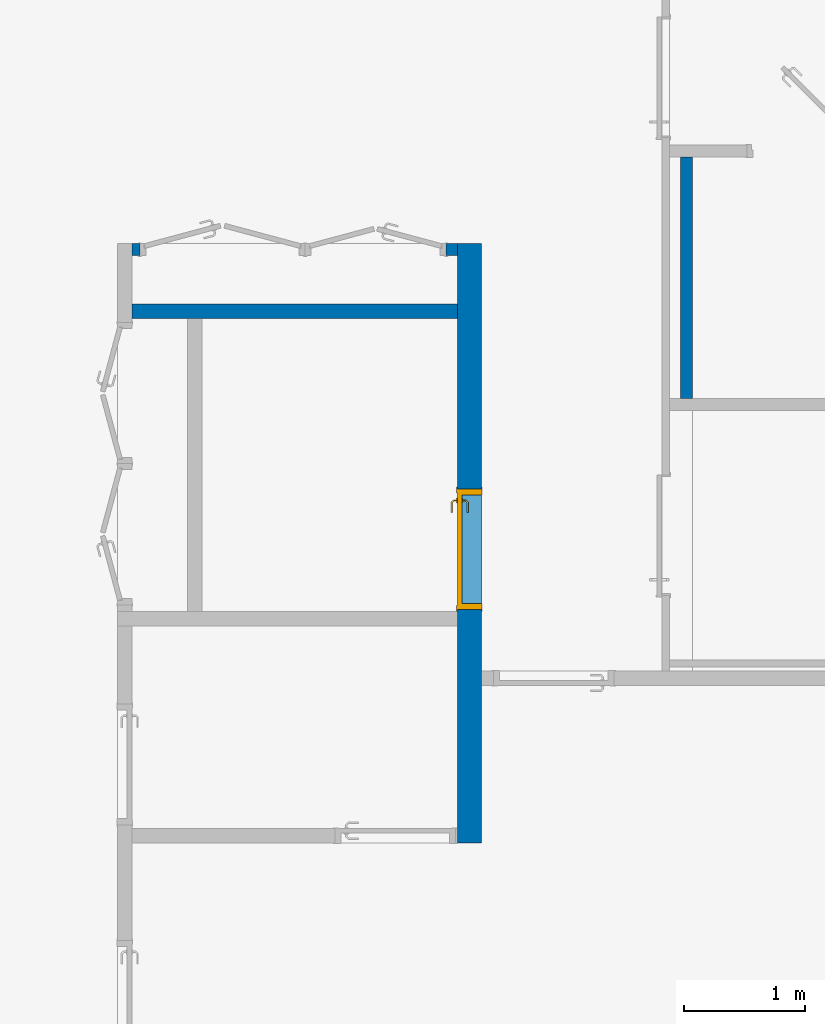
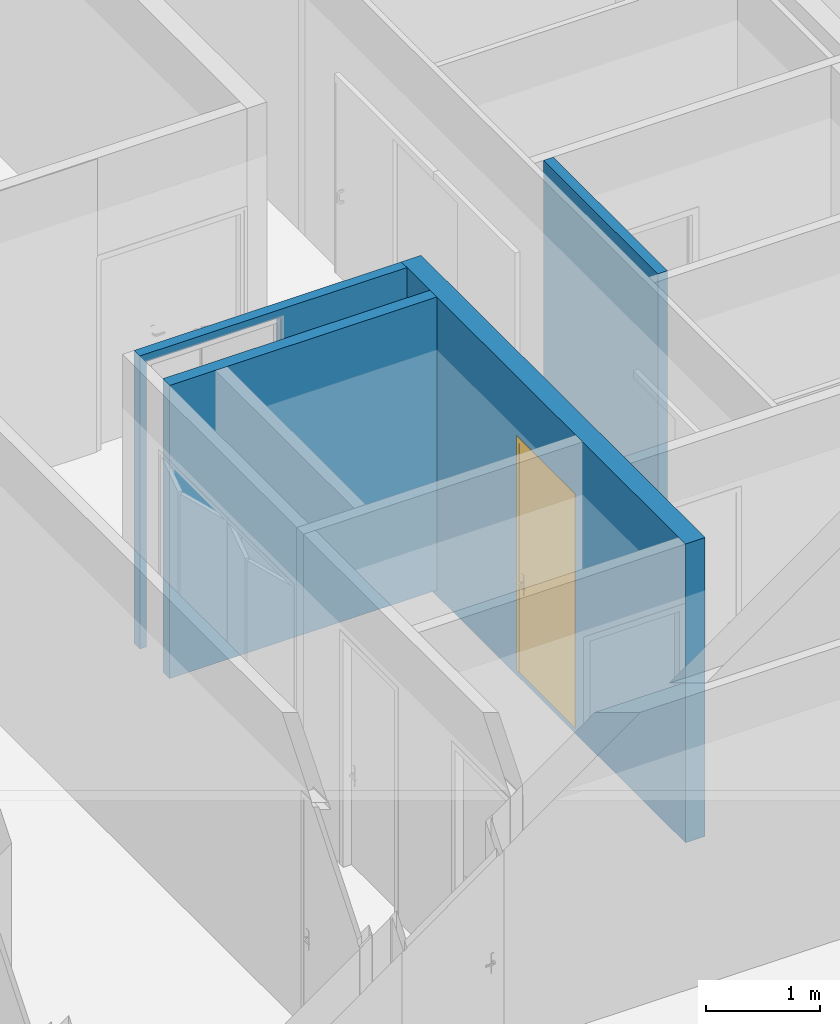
# One storey, part 97 of 240: 4 walls, 1 door, 3 openings.
"""IFC2X3 building model written with IfcOpenShell, lengths in centimetres."""

import ifcopenshell
import ifcopenshell.guid

model = None  # the IFC model being written
_history = None  # IfcOwnerHistory: only IFC2X3 demands one
_inside = {}  # id of a spatial element -> (the spatial element, [elements in it])
_under = {}  # id of a project, library or spatial element -> (it, [spatial elements below it])
_declared = {}  # id of a project -> (the project, [libraries it declares])
_typed = {}  # id of a type object -> (the type object, [elements of that type])
_made_of = {}  # id of a material, layer set ... -> (it, [elements and type objects made of it])


def new_model(schema):
    """Start an empty IFC model of exactly this schema.

    Asked for "IFC4X3", IfcOpenShell would pick the latest addendum, in which some entities
    have other attributes; the version numbers below select the first issue.
    IFC2X3 requires an IfcOwnerHistory on every rooted entity: one is made here for all.
    """
    global model, _history
    if schema == "IFC4X3":
        model = ifcopenshell.file(schema_version=(4, 3, 0, 0))
    else:
        model = ifcopenshell.file(schema=schema)
    _inside.clear()
    _under.clear()
    _declared.clear()
    _typed.clear()
    _made_of.clear()
    _history = None
    if model.schema == "IFC2X3":
        org = make("IfcOrganization", Name="unknown")
        user = make(
            "IfcPersonAndOrganization",
            ThePerson=make("IfcPerson", FamilyName="unknown"),
            TheOrganization=org,
        )
        app = make(
            "IfcApplication",
            ApplicationDeveloper=org,
            Version="unknown",
            ApplicationFullName="unknown",
            ApplicationIdentifier="unknown",
        )
        _history = make(
            "IfcOwnerHistory",
            OwningUser=user,
            OwningApplication=app,
            ChangeAction="ADDED",
            CreationDate=0,
        )
    return model


def make(cls, **values):
    """One entity of the class cls with the attributes given. An attribute that is None is left unset."""
    return model.create_entity(
        cls, **{name: value for name, value in values.items() if value is not None}
    )


def entity(cls, *values):
    """Any entity or typed value of the class cls, its attributes in the order of the schema. None: left unset."""
    e = model.create_entity(cls)
    for i, value in enumerate(values):
        if value is not None:
            e[i] = value
    return e


def rooted(cls, **values):
    """An entity with a GlobalId (a new one), such as an element, a storey or a relation."""
    return make(cls, GlobalId=ifcopenshell.guid.new(), OwnerHistory=_history, **values)


def si_unit(unit_type, name, prefix=None):
    """IfcSIUnit, for example si_unit("LENGTHUNIT", "METRE", prefix="MILLI")."""
    return make("IfcSIUnit", UnitType=unit_type, Prefix=prefix, Name=name)


def converted_unit(unit_type, name, factor, base, dimensions=None, offset=None):
    """IfcConversionBasedUnit, such as the inch: factor (a typed value) times the base unit."""
    return make(
        "IfcConversionBasedUnit"
        if offset is None
        else "IfcConversionBasedUnitWithOffset",
        ConversionOffset=offset,
        Dimensions=None
        if dimensions is None
        else entity("IfcDimensionalExponents", *dimensions),
        UnitType=unit_type,
        Name=name,
        ConversionFactor=make(
            "IfcMeasureWithUnit", ValueComponent=factor, UnitComponent=base
        ),
    )


def derived_unit(unit_type, elements):
    """IfcDerivedUnit: a product of units, each with its exponent."""
    return make(
        "IfcDerivedUnit",
        Elements=[
            make("IfcDerivedUnitElement", Unit=unit, Exponent=power)
            for unit, power in elements
        ],
        UnitType=unit_type,
    )


def assignment(units):
    """IfcUnitAssignment: the units of a project."""
    return None if units is None else make("IfcUnitAssignment", Units=units)


def point(xyz):
    """IfcCartesianPoint."""
    return None if xyz is None else make("IfcCartesianPoint", Coordinates=xyz)


def direction(xyz):
    """IfcDirection."""
    return None if xyz is None else make("IfcDirection", DirectionRatios=xyz)


def frame(location, z_axis=None, x_axis=None):
    """IfcAxis2Placement3D, a coordinate frame: its origin and axes. An axis left out is left unset."""
    return make(
        "IfcAxis2Placement3D",
        Location=point(location),
        Axis=direction(z_axis),
        RefDirection=direction(x_axis),
    )


def frame_2d(location, x_axis=None):
    """IfcAxis2Placement2D, a coordinate frame in the plane: its origin and x axis."""
    return make(
        "IfcAxis2Placement2D", Location=point(location), RefDirection=direction(x_axis)
    )


def origin():
    """The frame at (0, 0, 0) with its axes left unset."""
    return frame((0.0, 0.0, 0.0))


def place(relative_to, where):
    """IfcLocalPlacement: puts the frame where relative to a parent placement (None: the world)."""
    return make(
        "IfcLocalPlacement", PlacementRelTo=relative_to, RelativePlacement=where
    )


def context(
    kind, dimensions, precision=None, world=None, true_north=None, identifier=None
):
    """IfcGeometricRepresentationContext, for example the 3D "Model" context."""
    return make(
        "IfcGeometricRepresentationContext",
        ContextIdentifier=identifier,
        ContextType=kind,
        CoordinateSpaceDimension=dimensions,
        Precision=precision,
        WorldCoordinateSystem=world,
        TrueNorth=true_north,
    )


def subcontext(parent, identifier, kind, view, scale=None):
    """IfcGeometricRepresentationSubContext, for example "Body" below "Model"."""
    return make(
        "IfcGeometricRepresentationSubContext",
        ContextIdentifier=identifier,
        ContextType=kind,
        ParentContext=parent,
        TargetScale=scale,
        TargetView=view,
    )


def project(units=None, contexts=None):
    """IfcProject with its units and contexts."""
    return rooted(
        "IfcProject",
        Name="project",
        RepresentationContexts=contexts,
        UnitsInContext=assignment(units),
    )


def spatial(cls, under=None, at=None, **own):
    """A site, building, storey or space (cls), placed at a placement, below another one or the project."""
    s = rooted(cls, ObjectPlacement=at, **own)
    if under is not None:
        _under.setdefault(under.id(), (under, []))[1].append(s)
    return s


def profile(cls, at=None, kind="AREA", **sizes):
    """A parametric profile (cls). Its sizes go by their IFC names, for example OverallWidth=200.0."""
    return make(cls, ProfileType=kind, Position=at, **sizes)


def rectangle(**sizes):
    """IfcRectangleProfileDef."""
    return profile("IfcRectangleProfileDef", **sizes)


def extrude(swept, where, along, depth):
    """IfcExtrudedAreaSolid: the profile swept, set in the frame where, extruded along a direction by depth."""
    return make(
        "IfcExtrudedAreaSolid",
        SweptArea=swept,
        Position=where,
        ExtrudedDirection=direction(along),
        Depth=depth,
    )


def faces_of(points, faces, orient=None, outer=None):
    """IfcFace entities. A face is a list of loops; a loop is a list of indices into points, from 0.

    orient and outer hold one flag for each loop. By default every Orientation is true, the
    first loop of a face is its IfcFaceOuterBound and the others are IfcFaceBound.
    """
    made = []
    for i, loops in enumerate(faces):
        bounds = []
        for j, loop in enumerate(loops):
            is_outer = j == 0 if outer is None else outer[i][j]
            bounds.append(
                make(
                    "IfcFaceOuterBound" if is_outer else "IfcFaceBound",
                    Bound=make("IfcPolyLoop", Polygon=[points[k] for k in loop]),
                    Orientation=True if orient is None else orient[i][j],
                )
            )
        made.append(make("IfcFace", Bounds=bounds))
    return made


def faceted_brep(points, faces, orient=None, outer=None, voids=None):
    """IfcFacetedBrep: a solid bounded by flat faces; with voids (closed shells), ...WithVoids."""
    shared = [point(p) for p in points]
    hull = make("IfcClosedShell", CfsFaces=faces_of(shared, faces, orient, outer))
    if voids is None:
        return make("IfcFacetedBrep", Outer=hull)
    return make(
        "IfcFacetedBrepWithVoids",
        Outer=hull,
        Voids=[
            make(cls, CfsFaces=faces_of(shared, fs, o, b)) for cls, fs, o, b in voids
        ],
    )


def shape(context_of_items, identifier, shape_type, items):
    """IfcShapeRepresentation: the items that make up one representation, for example the "Body"."""
    return make(
        "IfcShapeRepresentation",
        ContextOfItems=context_of_items,
        RepresentationIdentifier=identifier,
        RepresentationType=shape_type,
        Items=items,
    )


def source(mapping_origin, context_of_items, identifier, shape_type, items):
    """IfcRepresentationMap: a shape defined once, which mapped items show again and again."""
    return make(
        "IfcRepresentationMap",
        MappingOrigin=mapping_origin,
        MappedRepresentation=shape(context_of_items, identifier, shape_type, items),
    )


def transform(
    local_origin,
    x_axis=None,
    y_axis=None,
    z_axis=None,
    scale=None,
    scale2=None,
    scale3=None,
    uniform=True,
):
    """IfcCartesianTransformationOperator3D, or its non-uniform kind. x_axis, y_axis, z_axis: its Axis1, 2, 3."""
    if uniform:
        return make(
            "IfcCartesianTransformationOperator3D",
            Axis1=direction(x_axis),
            Axis2=direction(y_axis),
            LocalOrigin=point(local_origin),
            Scale=scale,
            Axis3=direction(z_axis),
        )
    return make(
        "IfcCartesianTransformationOperator3DnonUniform",
        Axis1=direction(x_axis),
        Axis2=direction(y_axis),
        LocalOrigin=point(local_origin),
        Scale=scale,
        Axis3=direction(z_axis),
        Scale2=scale2,
        Scale3=scale3,
    )


def mapped(mapping_source, mapping_target):
    """IfcMappedItem: shows the shape of a source again, moved by a transform."""
    return make(
        "IfcMappedItem", MappingSource=mapping_source, MappingTarget=mapping_target
    )


def material(Name=None, Category=None):
    """IfcMaterial."""
    return make("IfcMaterial", Name=Name, Category=Category)


def material_list(materials):
    """IfcMaterialList."""
    return make("IfcMaterialList", Materials=materials)


def layer(
    of_material, thickness, ventilated=None, Name=None, Category=None, Priority=None
):
    """IfcMaterialLayer: one layer of a wall or slab, of a material (None: an air gap)."""
    return make(
        "IfcMaterialLayer",
        Material=of_material,
        LayerThickness=thickness,
        IsVentilated=ventilated,
        Name=Name,
        Category=Category,
        Priority=Priority,
    )


def layer_set(layers, Name=None):
    """IfcMaterialLayerSet."""
    return make("IfcMaterialLayerSet", MaterialLayers=layers, LayerSetName=Name)


def layer_usage(for_layer_set, set_direction, sense, offset, extent=None):
    """IfcMaterialLayerSetUsage: how a layer set lies in its element."""
    return make(
        "IfcMaterialLayerSetUsage",
        ForLayerSet=for_layer_set,
        LayerSetDirection=set_direction,
        DirectionSense=sense,
        OffsetFromReferenceLine=offset,
        ReferenceExtent=extent,
    )


def made_of(thing, what):
    """Note that an element or type object is made of a material, layer set ...; save() writes the relation."""
    if what is not None:
        _made_of.setdefault(what.id(), (what, []))[1].append(thing)
    return thing


def type_object(cls, material=None, **own):
    """A type object (cls), such as IfcWallType, which elements share."""
    return made_of(rooted(cls, **own), material)


def type_shapes(of_type, sources):
    """Give a type object the sources (RepresentationMaps) that its elements show as mapped items."""
    of_type.RepresentationMaps = sources


def element(
    cls,
    number,
    at=None,
    inside=None,
    cuts=None,
    type_object=None,
    material=None,
    context=None,
    identifier="Body",
    shape_type=None,
    held_by="IfcProductDefinitionShape",
    body=None,
    shapes=None,
    **own,
):
    """One element of the class cls, such as IfcWall. Its Tag is "e" and its number.

    at: its placement. inside: the storey or other place that contains it. cuts: it is an
    opening in that element (IfcRelVoidsElement). A single representation is given by context,
    identifier, shape_type and body (its items); several are given by shapes. held_by: the class
    of the entity that holds the representations. save() writes the other relations.
    """
    e = rooted(cls, Tag="e%d" % number, ObjectPlacement=at, **own)
    if body is not None:
        shapes = [shape(context, identifier, shape_type, body)]
    if shapes is not None:
        e.Representation = make(held_by, Representations=shapes)
    if inside is not None:
        _inside.setdefault(inside.id(), (inside, []))[1].append(e)
    if cuts is not None:
        rooted(
            "IfcRelVoidsElement", RelatingBuildingElement=cuts, RelatedOpeningElement=e
        )
    if type_object is not None:
        _typed.setdefault(type_object.id(), (type_object, []))[1].append(e)
    return made_of(e, material)


def fill(opening, filler):
    """IfcRelFillsElement: the door or window that sits in an opening."""
    return rooted(
        "IfcRelFillsElement",
        RelatingOpeningElement=opening,
        RelatedBuildingElement=filler,
    )


def aggregate(whole, parts):
    """IfcRelAggregates: a whole, such as a stair, and the parts it consists of."""
    return rooted("IfcRelAggregates", RelatingObject=whole, RelatedObjects=parts)


def save(model, path):
    """Write the relations noted so far, then the file.

    IfcRelAggregates (storeys below a building ...), IfcRelContainedInSpatialStructure (elements
    in a storey), IfcRelDefinesByType, IfcRelAssociatesMaterial and IfcRelDeclares: one each for
    every whole, place, type object, material and project.
    """
    for whole, parts in _under.values():
        aggregate(whole, parts)
    for where, things in _inside.values():
        rooted(
            "IfcRelContainedInSpatialStructure",
            RelatedElements=things,
            RelatingStructure=where,
        )
    for kind, things in _typed.values():
        rooted("IfcRelDefinesByType", RelatedObjects=things, RelatingType=kind)
    for what, things in _made_of.values():
        rooted("IfcRelAssociatesMaterial", RelatedObjects=things, RelatingMaterial=what)
    for by, libraries in _declared.values():
        rooted("IfcRelDeclares", RelatingContext=by, RelatedDefinitions=libraries)
    model.write(path)


model = new_model("IFC2X3")

# Units and contexts
model_context = context("Model", 3, precision=0.001, world=origin(), true_north=direction((6.12303176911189e-17, 1.0)))
body_context = subcontext(model_context, "Body", "Model", "MODEL_VIEW")
ifc_project = project(units=[si_unit("LENGTHUNIT", "METRE", prefix="CENTI"), si_unit("AREAUNIT", "SQUARE_METRE"), si_unit("VOLUMEUNIT", "CUBIC_METRE"), converted_unit("PLANEANGLEUNIT", "DEGREE", entity("IfcRatioMeasure", 0.0174532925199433), si_unit("PLANEANGLEUNIT", "RADIAN"), dimensions=[0, 0, 0, 0, 0, 0, 0]), si_unit("MASSUNIT", "GRAM", prefix="KILO"), derived_unit("MASSDENSITYUNIT", [(si_unit("MASSUNIT", "GRAM", prefix="KILO"), 1), (si_unit("LENGTHUNIT", "METRE"), -3)]), si_unit("TIMEUNIT", "SECOND"), si_unit("FREQUENCYUNIT", "HERTZ"), si_unit("THERMODYNAMICTEMPERATUREUNIT", "DEGREE_CELSIUS"), derived_unit("THERMALTRANSMITTANCEUNIT", [(si_unit("MASSUNIT", "GRAM", prefix="KILO"), 1), (si_unit("THERMODYNAMICTEMPERATUREUNIT", "KELVIN"), -1), (si_unit("TIMEUNIT", "SECOND"), -3)]), derived_unit("VOLUMETRICFLOWRATEUNIT", [(si_unit("LENGTHUNIT", "METRE"), 3), (si_unit("TIMEUNIT", "SECOND"), -1)]), si_unit("ELECTRICCURRENTUNIT", "AMPERE"), si_unit("ELECTRICVOLTAGEUNIT", "VOLT"), si_unit("POWERUNIT", "WATT"), si_unit("FORCEUNIT", "NEWTON", prefix="KILO"), si_unit("ILLUMINANCEUNIT", "LUX"), si_unit("LUMINOUSFLUXUNIT", "LUMEN"), si_unit("LUMINOUSINTENSITYUNIT", "CANDELA"), derived_unit("USERDEFINED", [(si_unit("MASSUNIT", "GRAM", prefix="KILO"), -1), (si_unit("LENGTHUNIT", "METRE"), -2), (si_unit("TIMEUNIT", "SECOND"), 3), (si_unit("LUMINOUSFLUXUNIT", "LUMEN"), 1)]), derived_unit("LINEARVELOCITYUNIT", [(si_unit("LENGTHUNIT", "METRE"), 1), (si_unit("TIMEUNIT", "SECOND"), -1)]), si_unit("PRESSUREUNIT", "PASCAL"), derived_unit("USERDEFINED", [(si_unit("LENGTHUNIT", "METRE"), -2), (si_unit("MASSUNIT", "GRAM", prefix="KILO"), 1), (si_unit("TIMEUNIT", "SECOND"), -2)])], contexts=[model_context])

# Site, building, storey
site_placement = place(None, frame((-2781.94577612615, 7442.24238424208, 0.0)))
site = spatial("IfcSite", under=ifc_project, at=site_placement, Name="Default", CompositionType="ELEMENT")
building_placement = place(site_placement, origin())
building = spatial("IfcBuilding", under=site, at=building_placement, CompositionType="ELEMENT")
storey_placement = place(building_placement, origin())
storey = spatial("IfcBuildingStorey", under=building, at=storey_placement, Name="N00 - COO", CompositionType="ELEMENT", Elevation=0.0)

# Wall, opening, door
ifc_material_1 = material(Name="01 - Maçonnerie")
ifc_layer_1 = layer(ifc_material_1, 20.0)
ifc_layer_set_1 = layer_set([ifc_layer_1], Name="Mur de base:04 - Structure - béton - 20cm")
ifc_layer_usage_1 = layer_usage(ifc_layer_set_1, "AXIS2", "NEGATIVE", 10.0)
wall_type_1 = type_object("IfcWallType", Name="Mur de base:04 - Structure - béton - 20cm", PredefinedType="STANDARD", material=ifc_layer_set_1)
wall_1_placement = place(building_placement, frame((-10184.834550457, -2673.07903364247, -6.0), z_axis=(0.0, 0.0, 1.0), x_axis=(0.0, -1.0, 0.0)))
wall_1 = element("IfcWallStandardCase", 1, at=wall_1_placement, inside=storey, type_object=wall_type_1, material=ifc_layer_usage_1, Name="Mur de base:04 - Structure - béton - 20cm", ObjectType="Mur de base:04 - Structure - béton - 20cm", context=body_context, shape_type="SweptSolid", body=[
    extrude(rectangle(XDim=497.000000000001, YDim=19.9999999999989, at=frame_2d((248.500000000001, 0.0), x_axis=(-1.0, 0.0))), origin(), (0.0, 0.0, 1.0), 319.0),
])
opening_1_placement = place(wall_1_placement, frame((303.499999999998, 10.0, 6.0)))
opening_1 = element("IfcOpeningElement", 2, at=opening_1_placement, cuts=wall_1, Name="Int. Simple:PP simple (0.93m x 2.50m):1", ObjectType="Opening", context=body_context, shape_type="SweptSolid", body=[
    extrude(rectangle(XDim=248.500000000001, YDim=99.9999999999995, at=frame_2d((124.250000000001, 49.9999999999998), x_axis=(1.0, 0.0))), frame((0.0, 0.0, 0.0), z_axis=(0.0, -1.0, 0.0), x_axis=(0.0, 0.0, 1.0)), (0.0, 0.0, 1.0), 20.0),
])
ifc_material_2 = material(Name="Finition Peinture - Blanc satiné")
ifc_material_3 = material(Name="Bois - Panneau de porte")
ifc_material_4 = material(Name="Bois - Cadre de porte")
ifc_material_list_1 = material_list([ifc_material_2, ifc_material_3, ifc_material_4])
ifc_material_list_2 = material_list([ifc_material_2, ifc_material_3, ifc_material_4])
door_style = type_object("IfcDoorStyle", Name="PP simple (0.93m x 2.50m)", ConstructionType="NOTDEFINED", OperationType="SINGLE_SWING_LEFT", ParameterTakesPrecedence=False, Sizeable=False, material=ifc_material_list_2)
shared_shape = source(origin(), body_context, "Body", "Brep", [
    faceted_brep([(10.5352761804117, -0.500000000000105, 86.6003983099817), (11.5000000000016, -0.500000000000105, 87.0), (11.5000000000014, -0.500000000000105, 108.0), (10.5352761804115, -0.500000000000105, 108.399601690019), (9.50000000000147, -0.500000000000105, 108.535898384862), (8.46472381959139, -0.500000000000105, 108.399601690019), (7.50000000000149, -0.500000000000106, 108.0), (7.50000000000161, -0.500000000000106, 87.0), (8.46472381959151, -0.500000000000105, 86.6003983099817), (9.50000000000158, -0.500000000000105, 86.464101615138), (10.5352761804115, 0.0, 108.399601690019), (11.5000000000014, 0.0, 108.0), (11.5000000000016, 0.0, 87.0), (10.5352761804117, 0.0, 86.6003983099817), (9.50000000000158, 0.0, 86.464101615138), (8.46472381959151, 0.0, 86.6003983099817), (7.50000000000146, 0.0, 87.0), (7.50000000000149, 0.0, 108.0), (8.46472381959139, 0.0, 108.399601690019), (9.50000000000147, 0.0, 108.535898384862)], [[[0, 1, 2, 3, 4, 5, 6, 7, 8, 9]], [[10, 11, 12, 13, 14, 15, 16, 17, 18, 19]], [[16, 15, 8, 7]], [[8, 15, 14, 9]], [[14, 13, 0, 9]], [[13, 12, 1, 0]], [[2, 1, 12, 11]], [[11, 10, 3, 2]], [[3, 10, 19, 4]], [[19, 18, 5, 4]], [[18, 17, 6, 5]], [[7, 6, 17, 16]]]),
    faceted_brep([(10.5352761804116, 4.0, 86.6003983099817), (11.5000000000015, 4.0, 87.0), (11.5000000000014, 4.0, 108.0), (10.5352761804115, 4.0, 108.399601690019), (9.50000000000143, 4.0, 108.535898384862), (8.46472381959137, 4.0, 108.399601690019), (7.50000000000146, 4.0, 108.0), (7.50000000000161, 4.0, 87.0), (8.46472381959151, 4.0, 86.6003983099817), (9.50000000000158, 4.0, 86.464101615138), (10.5352761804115, 4.49999999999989, 108.399601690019), (11.5000000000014, 4.49999999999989, 108.0), (11.5000000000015, 4.49999999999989, 87.0), (10.5352761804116, 4.49999999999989, 86.6003983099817), (9.50000000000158, 4.49999999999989, 86.464101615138), (8.46472381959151, 4.49999999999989, 86.6003983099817), (7.50000000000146, 4.49999999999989, 87.0), (7.50000000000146, 4.49999999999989, 108.0), (8.46472381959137, 4.49999999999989, 108.399601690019), (9.50000000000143, 4.49999999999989, 108.535898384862)], [[[0, 1, 2, 3, 4, 5, 6, 7, 8, 9]], [[10, 11, 12, 13, 14, 15, 16, 17, 18, 19]], [[11, 10, 3, 2]], [[3, 10, 19, 4]], [[19, 18, 5, 4]], [[18, 17, 6, 5]], [[7, 6, 17, 16]], [[16, 15, 8, 7]], [[8, 15, 14, 9]], [[14, 13, 0, 9]], [[13, 12, 1, 0]], [[2, 1, 12, 11]]]),
    faceted_brep([(9.29747013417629, -0.500000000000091, 100.778044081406), (9.70252986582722, -0.500000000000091, 100.778044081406), (10.1000000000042, -0.500000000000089, 100.699999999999), (10.1000000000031, -0.500000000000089, 99.3000000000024), (9.7025298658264, -0.500000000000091, 99.2219559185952), (9.29747013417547, -0.500000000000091, 99.221955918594), (8.8999999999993, -0.500000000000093, 99.2999999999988), (8.89999999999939, -0.500000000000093, 100.7), (8.89999999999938, -3.26509507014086, 100.7), (9.29747013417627, -3.10045754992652, 100.778044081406), (10.9023585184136, -4.70534593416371, 100.778044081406), (11.0701397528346, -4.30028620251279, 100.778044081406), (9.7025298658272, -2.93267631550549, 100.778044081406), (10.1000000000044, -2.76803879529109, 100.7), (10.1000000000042, -2.76803879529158, 99.3000000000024), (9.7025298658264, -2.93267631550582, 99.2219559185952), (11.0701397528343, -4.30028620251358, 99.2219559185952), (10.9023585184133, -4.70534593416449, 99.221955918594), (9.29747013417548, -3.10045754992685, 99.221955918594), (8.89999999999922, -3.26509507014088, 99.2999999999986), (10.7377209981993, -5.10281606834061, 100.7), (11.2347772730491, -3.90281606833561, 100.7), (11.2347772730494, -3.90281606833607, 99.3000000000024), (10.7377209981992, -5.10281606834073, 99.2999999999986), (19.5018640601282, -5.1028160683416, 99.2999999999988), (19.5018640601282, -4.70534593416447, 99.221955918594), (19.5018640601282, -4.30028620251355, 99.2219559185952), (19.5018640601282, -3.90281606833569, 99.3000000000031), (19.5018640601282, -3.90281606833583, 100.7), (19.5018640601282, -4.30028620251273, 100.778044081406), (19.5018640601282, -4.70534593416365, 100.778044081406), (19.5018640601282, -5.10281606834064, 100.699999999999), (14.7307697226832, -5.10281606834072, 100.7), (15.2860019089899, -4.5028160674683, 100.78786867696), (15.3683206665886, -3.9028160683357, 100.7), (15.3683206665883, -3.90281606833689, 99.3000000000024), (15.2860018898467, -4.50281607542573, 99.2121313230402), (14.7307700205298, -5.10281606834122, 99.2999999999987)], [[[0, 1, 2, 3, 4, 5, 6, 7]], [[8, 9, 0, 7]], [[9, 10, 11, 12, 1, 0]], [[12, 13, 2, 1]], [[3, 2, 13, 14]], [[14, 15, 4, 3]], [[15, 16, 17, 18, 5, 4]], [[18, 19, 6, 5]], [[7, 6, 19, 8]], [[20, 10, 9, 8]], [[11, 21, 13, 12]], [[14, 13, 21, 22]], [[22, 16, 15, 14]], [[17, 23, 19, 18]], [[8, 19, 23, 20]], [[24, 25, 26, 27, 28, 29, 30, 31]], [[32, 30, 33]], [[31, 30, 32]], [[10, 20, 32]], [[33, 34, 11]], [[21, 11, 34]], [[34, 29, 28]], [[30, 29, 33]], [[29, 34, 33]], [[10, 32, 33]], [[10, 33, 11]], [[22, 21, 34, 28, 27, 35]], [[35, 26, 36]], [[37, 36, 25]], [[22, 35, 16]], [[35, 27, 26]], [[24, 37, 25]], [[23, 17, 37]], [[37, 17, 36]], [[17, 16, 36]], [[16, 35, 36]], [[25, 36, 26]], [[20, 23, 37, 24, 31, 32]]]),
    faceted_brep([(9.29747013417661, 4.49999999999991, 100.778044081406), (8.89999999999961, 4.4999999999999, 100.7), (8.89999999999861, 4.4999999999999, 99.2999999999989), (9.29747013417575, 4.49999999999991, 99.221955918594), (9.70252986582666, 4.49999999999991, 99.2219559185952), (10.1000000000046, 4.49999999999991, 99.3000000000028), (10.1000000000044, 4.49999999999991, 100.7), (9.70252986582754, 4.49999999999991, 100.778044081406), (10.1000000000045, 6.7485204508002, 99.3000000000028), (10.1000000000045, 6.74852045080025, 100.7), (9.70252986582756, 6.91315797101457, 100.778044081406), (11.083890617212, 8.29451872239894, 100.778044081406), (10.916109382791, 8.69957845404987, 100.778044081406), (9.29747013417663, 7.0809392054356, 100.778044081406), (8.89999999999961, 7.24557672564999, 100.7), (8.89999999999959, 7.2455767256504, 99.2999999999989), (9.29747013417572, 7.08093920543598, 99.221955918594), (10.9161093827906, 8.69957845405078, 99.221955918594), (11.0838906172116, 8.29451872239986, 99.2219559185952), (9.70252986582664, 6.91315797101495, 99.2219559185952), (11.2485281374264, 7.89704858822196, 99.3000000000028), (11.2485281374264, 7.89704858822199, 100.7), (10.7514718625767, 9.09704858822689, 100.7), (10.7514718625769, 9.0970485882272, 99.2999999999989), (19.5045783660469, 7.89704858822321, 99.3000000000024), (19.5045783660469, 8.29451872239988, 99.2219559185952), (19.5045783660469, 8.6995784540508, 99.221955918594), (19.5045783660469, 9.09704858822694, 99.2999999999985), (19.5045783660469, 9.09704858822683, 100.7), (19.5045783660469, 8.69957845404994, 100.778044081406), (19.5045783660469, 8.29451872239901, 100.778044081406), (19.5045783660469, 7.89704858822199, 100.7), (15.3765520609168, 7.89704858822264, 99.3000000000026), (15.3765532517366, 7.89704858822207, 100.7), (15.294234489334, 8.49704858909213, 100.78786867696), (14.7445205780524, 9.09704858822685, 100.7), (14.7445204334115, 9.09704858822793, 99.2999999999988), (15.2942345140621, 8.49704858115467, 99.2121313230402)], [[[0, 1, 2, 3, 4, 5, 6, 7]], [[6, 5, 8, 9]], [[9, 10, 7, 6]], [[10, 11, 12, 13, 0, 7]], [[13, 14, 1, 0]], [[2, 1, 14, 15]], [[15, 16, 3, 2]], [[16, 17, 18, 19, 4, 3]], [[19, 8, 5, 4]], [[9, 8, 20, 21]], [[21, 11, 10, 9]], [[12, 22, 14, 13]], [[15, 14, 22, 23]], [[23, 17, 16, 15]], [[18, 20, 8, 19]], [[24, 25, 26, 27, 28, 29, 30, 31]], [[21, 20, 32, 24, 31, 33]], [[33, 30, 34]], [[35, 34, 29]], [[21, 33, 11]], [[33, 31, 30]], [[28, 35, 29]], [[22, 12, 35]], [[35, 12, 34]], [[12, 11, 34]], [[11, 33, 34]], [[29, 34, 30]], [[22, 35, 28, 27, 36, 23]], [[36, 26, 37]], [[27, 26, 36]], [[17, 23, 36]], [[37, 32, 18]], [[20, 18, 32]], [[32, 25, 24]], [[26, 25, 37]], [[25, 32, 37]], [[17, 36, 37]], [[17, 37, 18]]]),
    faceted_brep([(3.50000000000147, 4.0, 245.0), (96.5000000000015, 4.0, 245.0), (96.5000000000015, 4.0, 0.0), (3.50000000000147, 4.0, 0.0), (3.50000000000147, 0.0, 245.0), (3.50000000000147, 0.0, 0.0), (96.5000000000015, 0.0, 0.0), (96.5000000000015, 0.0, 245.0)], [[[0, 1, 2, 3]], [[4, 5, 6, 7]], [[1, 0, 4, 7]], [[2, 1, 7, 6]], [[3, 2, 6, 5]], [[0, 3, 5, 4]]]),
    faceted_brep([(0.0, 20.0, 0.0), (-1.50000000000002, 20.0, 0.0), (-1.50000000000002, 20.5000000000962, 0.0), (5.0, 20.5000000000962, 0.0), (5.0, 4.0, 0.0), (3.50000000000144, 4.0, 0.0), (3.50000000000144, -0.500000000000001, 0.0), (-1.50000000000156, -0.500000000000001, 0.0), (-1.50000000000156, 0.0, 0.0), (0.0, 0.0, 0.0), (0.0, 0.0, 248.500000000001), (0.0, 20.0, 248.500000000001), (100.0, 20.0, 248.500000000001), (100.0, 20.0, 0.0), (101.5, 20.0, 0.0), (101.5, 20.0, 250.0), (-1.50000000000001, 20.0, 250.0), (5.0, 20.5000000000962, 243.5), (5.0, 4.0, 243.5), (95.0, 4.0, 243.5), (95.0, 4.0, 0.0), (96.499999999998, 4.0, 0.0), (96.499999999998, 4.0, 245.0), (3.50000000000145, 4.0, 245.0), (100.0, 0.0, 248.500000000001), (100.0, 0.0, 0.0), (101.500000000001, 0.0, 0.0), (101.500000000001, -0.500000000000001, 0.0), (96.499999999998, -0.500000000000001, 0.0), (95.0, 20.5000000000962, 0.0), (101.5, 20.5000000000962, 0.0), (95.0, 20.5000000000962, 243.5), (3.50000000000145, -0.500000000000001, 245.0), (96.499999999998, -0.500000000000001, 245.0), (101.500000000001, -0.500000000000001, 250.0), (-1.50000000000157, -0.500000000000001, 250.0), (-1.50000000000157, 0.0, 250.0), (101.500000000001, 0.0, 250.0), (-1.50000000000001, 20.5000000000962, 250.0), (101.5, 20.5000000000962, 250.0)], [[[0, 1, 2, 3, 4, 5, 6, 7, 8, 9]], [[0, 9, 10, 11]], [[1, 0, 11, 12, 13, 14, 15, 16]], [[3, 17, 18, 4]], [[5, 4, 18, 19, 20, 21, 22, 23]], [[12, 24, 25, 13]], [[13, 25, 26, 27, 28, 21, 20, 29, 30, 14]], [[19, 31, 29, 20]], [[11, 10, 24, 12]], [[18, 17, 31, 19]], [[5, 23, 32, 6]], [[7, 6, 32, 33, 28, 27, 34, 35]], [[8, 7, 35, 36]], [[9, 8, 36, 37, 26, 25, 24, 10]], [[2, 1, 16, 38]], [[3, 2, 38, 39, 30, 29, 31, 17]], [[33, 22, 21, 28]], [[37, 34, 27, 26]], [[39, 15, 14, 30]], [[32, 23, 22, 33]], [[36, 35, 34, 37]], [[38, 16, 15, 39]]]),
])
type_shapes(door_style, [shared_shape])
door_placement = place(opening_1_placement, frame((-100.0, -20.0, 0.0)))
door = element("IfcDoor", 3, at=door_placement, inside=storey, type_object=door_style, material=ifc_material_list_1, Name="Int. Simple:PP simple (0.93m x 2.50m)", ObjectType="Int. Simple:PP simple (0.93m x 2.50m)", OverallHeight=248.500000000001, OverallWidth=99.9999999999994, context=body_context, shape_type="MappedRepresentation", body=[
    mapped(shared_shape, transform((0.0, 0.0, 0.0), scale=1.0)),
])
fill(opening_1, door)

# Wall, openings
ifc_material_5 = material(Name="01 - Enduit/Plâtre")
ifc_layer_2 = layer(ifc_material_5, 1.3)
ifc_material_6 = material(Name="00 - Isolant")
ifc_layer_3 = layer(ifc_material_6, 7.4)
ifc_layer_4 = layer(ifc_material_5, 1.3)
ifc_layer_set_2 = layer_set([ifc_layer_2, ifc_layer_3, ifc_layer_4], Name="Mur de base:06 - cloisons - Ba13 10cm")
ifc_layer_usage_2 = layer_usage(ifc_layer_set_2, "AXIS2", "NEGATIVE", 5.0)
wall_type_2 = type_object("IfcWallType", Name="Mur de base:06 - cloisons - Ba13 10cm", PredefinedType="STANDARD", material=ifc_layer_set_2)
wall_2_placement = place(building_placement, frame((-10464.6130476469, -2678.07903364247, 0.0)))
wall_2 = element("IfcWallStandardCase", 4, at=wall_2_placement, inside=storey, type_object=wall_type_2, material=ifc_layer_usage_2, Name="Mur de base:06 - cloisons - Ba13 10cm", ObjectType="Mur de base:06 - cloisons - Ba13 10cm", context=body_context, shape_type="SweptSolid", body=[
    extrude(rectangle(XDim=269.778497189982, YDim=10.0000000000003, at=frame_2d((134.889248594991, -1.86517468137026e-14), x_axis=(-1.0, 0.0))), origin(), (0.0, 0.0, 1.0), 313.0),
])
opening_2_placement = place(wall_2_placement, frame((6.50000000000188, -5.0, 0.0)))
element("IfcOpeningElement", 5, at=opening_2_placement, cuts=wall_2, Name="Int. Double:PP Placard (1.26m x 2.04m):1", ObjectType="Opening", context=body_context, shape_type="SweptSolid", body=[
    extrude(rectangle(XDim=304.500000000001, YDim=137.0, at=frame_2d((152.250000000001, 68.5000000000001), x_axis=(1.0, 0.0))), frame((0.0, 0.0, 0.0), z_axis=(0.0, 1.0, 0.0), x_axis=(0.0, 0.0, 1.0)), (0.0, 0.0, 1.0), 10.0),
])
opening_3_placement = place(wall_2_placement, frame((143.500000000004, -5.0, 0.0)))
element("IfcOpeningElement", 6, at=opening_3_placement, cuts=wall_2, Name="Int. Double:PP Placard (1.10m x 2.50m):1", ObjectType="Opening", context=body_context, shape_type="SweptSolid", body=[
    extrude(rectangle(XDim=248.500000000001, YDim=117.0, at=frame_2d((124.250000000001, 58.5000000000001), x_axis=(1.0, 0.0))), frame((0.0, 0.0, 0.0), z_axis=(0.0, 1.0, 0.0), x_axis=(0.0, 0.0, 1.0)), (0.0, 0.0, 1.0), 10.0),
])

# Walls
ifc_layer_5 = layer(ifc_material_5, 1.0)
ifc_material_7 = material(Name="Maçonnerie - Béton")
ifc_layer_6 = layer(ifc_material_7, 10.0)
ifc_layer_7 = layer(ifc_material_5, 1.0)
ifc_layer_set_3 = layer_set([ifc_layer_5, ifc_layer_6, ifc_layer_7], Name="Mur de base:06 - cloisons - agglos10 + faïence 12cm")
ifc_layer_usage_3 = layer_usage(ifc_layer_set_3, "AXIS2", "NEGATIVE", 6.0)
wall_type_3 = type_object("IfcWallType", Name="Mur de base:06 - cloisons - agglos10 + faïence 12cm", PredefinedType="STANDARD", material=ifc_layer_set_3)
wall_3_placement = place(building_placement, frame((-10464.6130476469, -2729.07903364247, 0.0)))
element("IfcWallStandardCase", 7, at=wall_3_placement, inside=storey, type_object=wall_type_3, material=ifc_layer_usage_3, Name="Mur de base:06 - cloisons - agglos10 + faïence 12cm", ObjectType="Mur de base:06 - cloisons - agglos10 + faïence 12cm", context=body_context, shape_type="SweptSolid", body=[
    extrude(rectangle(XDim=269.778497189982, YDim=11.9999999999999, at=frame_2d((134.889248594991, -8.39328606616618e-14), x_axis=(-1.0, 0.0))), origin(), (0.0, 0.0, 1.0), 313.0),
])
ifc_material_8 = material(Name="Plastique, blanc opaque")
ifc_layer_8 = layer(ifc_material_8, 0.2)
ifc_material_9 = material(Name="00 - Isolant cloison Frigo")
ifc_layer_9 = layer(ifc_material_9, 9.6)
ifc_layer_10 = layer(ifc_material_8, 0.2)
ifc_layer_set_4 = layer_set([ifc_layer_8, ifc_layer_9, ifc_layer_10], Name="Mur de base:06 - cloisons - cuisine 10cm")
ifc_layer_usage_4 = layer_usage(ifc_layer_set_4, "AXIS2", "NEGATIVE", 5.0)
wall_type_4 = type_object("IfcWallType", Name="Mur de base:06 - cloisons - cuisine 10cm", PredefinedType="STANDARD", material=ifc_layer_set_4)
wall_4_placement = place(building_placement, frame((-10004.8417569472, -2801.29187595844, 0.0), z_axis=(0.0, 0.0, 1.0), x_axis=(0.0, 1.0, 0.0)))
element("IfcWallStandardCase", 8, at=wall_4_placement, inside=storey, type_object=wall_type_4, material=ifc_layer_usage_4, Name="Mur de base:06 - cloisons - cuisine 10cm", ObjectType="Mur de base:06 - cloisons - cuisine 10cm", context=body_context, shape_type="SweptSolid", body=[
    extrude(rectangle(XDim=200.005339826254, YDim=10.0000000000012, at=frame_2d((100.002669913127, 0.0), x_axis=(-1.0, 0.0))), origin(), (0.0, 0.0, 1.0), 313.00000000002),
])

save(model, "model.ifc")
